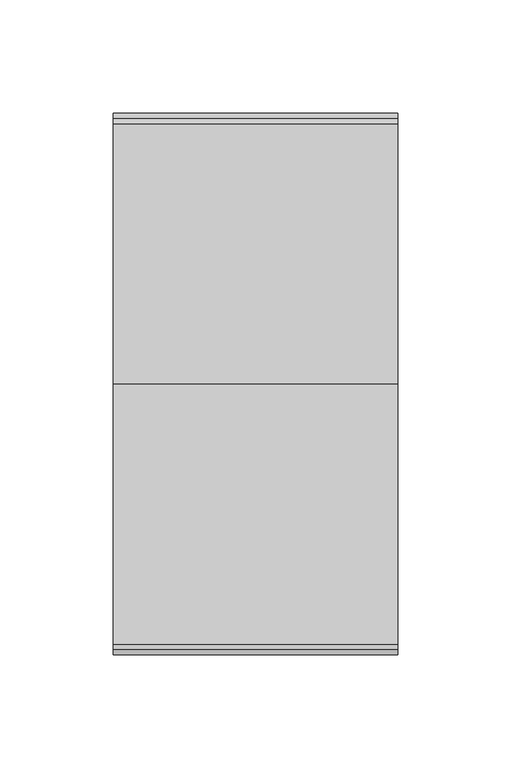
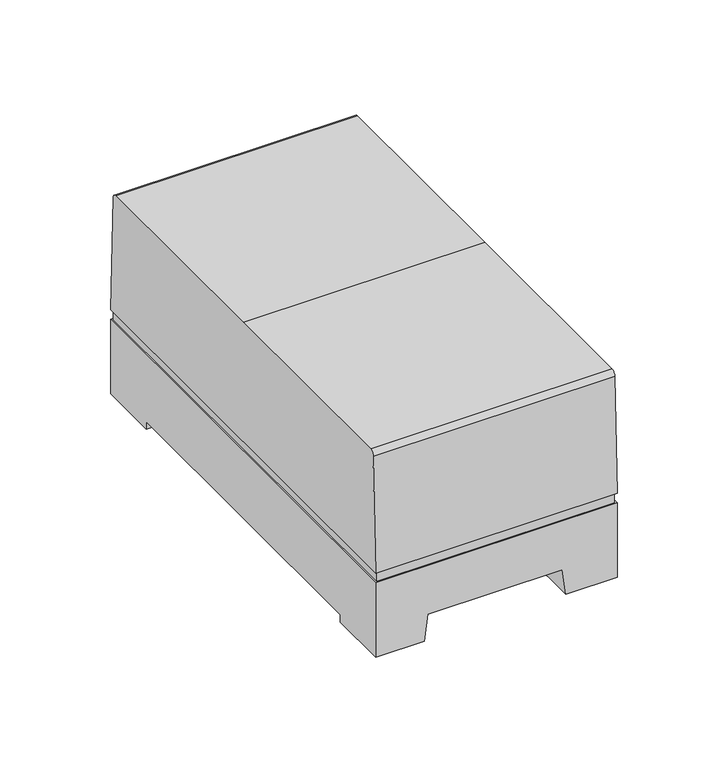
"""IFC4 building model written with IfcOpenShell, lengths in millimetres: proxy geometry, CONVER CCR-IG 48V 24V 7A : CONVER CCR-IG 48V 24V 7A."""

from ifc_helpers import new_model, si_unit, frame, origin, place, context, project, spatial, polyline, circle_curve, outline, extrude, source, transform, mapped, element, save
from ifc_brep_helpers import plane_surface, cylinder_surface, advanced_brep


def electrical_equipment_6eb15779(model_context):
    return source(origin(), model_context, "Body", "SolidModel", [
        extrude(outline(polyline([(-15.9, -50.0), (-15.9, -33.7275357), (-15.9, -31.10343), (-9.9, -31.10343), (-9.9, -29.583575), (-15.9, -29.583575), (-15.9, -27.086715), (-9.9, -27.086715), (-9.9, -25.56686), (-15.9, -25.56686), (-15.9, -23.07), (-9.9, -23.07), (-9.9, -21.550145), (-15.9, -21.550145), (-15.9, -19.053285), (-9.9, -19.053285), (-9.9, -17.53343), (-15.9, -17.53343), (-15.9, -15.03657), (-9.9, -15.03657), (-9.9, -13.516715), (-15.9, -13.516715), (-15.9, -11.019855), (-9.9, -11.019855), (-9.9, -9.5), (-15.9, -9.5), (-15.9, -7.00314), (-9.9, -7.00314), (-9.9, 6.983285), (-15.9, 6.983285), (-15.9, 9.480145), (-9.9, 9.480145), (-9.9, 11.0), (-15.9, 11.0), (-15.9, 13.418735), (-9.9, 13.418735), (-9.9, 15.0), (-15.9, 15.0), (-15.9, 17.418735), (-9.9, 17.418735), (-9.9, 19.0), (-15.9, 19.0), (-15.9, 21.418735), (-9.9, 21.418735), (-9.9, 23.0), (-15.9, 23.0), (-15.9, 25.418735), (-9.9, 25.418735), (-9.9, 27.0), (-15.9, 27.0), (-15.9, 29.418735), (-9.9, 29.418735), (-9.9, 31.0), (-15.9, 31.0), (-15.9, 50.0), (-4.9, 50.0), (-4.9, -50.0), (-15.9, -50.0)])), frame((0.0, -85.0, 0.0), z_axis=(0.0, 1.0, 0.0), x_axis=(0.0, 0.0, 1.0)), (0.0, 0.0, 1.0), 170.0),
        advanced_brep(
        [(62.9, -88.0, -23.9), (62.9, -88.0, -19.9), (62.9, -0.2949756, -19.9), (62.9, 87.4100488, -19.9), (62.9, 87.4100488, -23.9), (62.9, 119.4100488, -23.9), (62.9, 119.4100488, 17.1), (62.9, -120.0, 17.1), (62.9, -120.0, -23.9), (62.9, 119.4100488, 22.5), (62.9, 117.2066034, 85.598421), (62.9, 114.7050244, 88.1), (62.9, -0.2949756, 88.1), (62.9, -115.2949756, 88.1), (62.9, -117.7965546, 85.598421), (62.9, -120.0, 22.5), (-62.9, -88.0, -23.9), (-62.9, -120.0, -23.9), (-62.9, -120.0, 17.1), (-62.9, 119.4100488, 17.1), (-62.9, 119.4100488, -23.9), (-62.9, 87.4100488, -23.9), (-62.9, 87.4100488, -19.9), (-62.9, -0.2949756, -19.9), (-62.9, -88.0, -19.9), (-62.9, -120.0, 22.5), (-62.9, -117.7965546, 85.598421), (-62.9, -115.2949756, 88.1), (-62.9, -0.2949756, 88.1), (-62.9, 114.7050244, 88.1), (-62.9, 117.2066034, 85.598421), (-62.9, 119.4100488, 22.5), (36.15, -88.0, -23.9), (35.6147887, -88.0, -19.9), (-37.1206677, -88.0, -19.9), (-37.65, -88.0, -23.9), (35.6147887, -85.0, -19.9), (50.0, -85.0, -19.9), (50.0, -0.2949756, -19.9), (-50.0, -0.2949756, -19.9), (-50.0, -85.0, -19.9), (-37.1206677, -85.0, -19.9), (50.0, 85.0, -19.9), (35.6147887, 85.0, -19.9), (35.6147887, 87.4100488, -19.9), (-37.1206677, 87.4100488, -19.9), (-37.1206677, 85.0, -19.9), (-50.0, 85.0, -19.9), (36.15, 87.4100488, -23.9), (-37.65, 87.4100488, -23.9), (36.15, 119.4100488, -23.9), (-37.65, 119.4100488, -23.9), (34.25, 119.4100488, -9.7), (-35.7708703, 119.4100488, -9.7), (-37.65, -120.0, -23.9), (-35.7708703, -120.0, -9.7), (34.25, -120.0, -9.7), (36.15, -120.0, -23.9), (-36.5913354, -85.0, -15.9), (-36.5913354, 85.0, -15.9), (35.0795775, 85.0, -15.9), (35.0795775, -85.0, -15.9), (61.9899512, 118.5, 22.5), (61.9899512, -119.0899512, 22.5), (61.9899512, -119.0899512, 17.1), (61.9899512, 118.5, 17.1), (-61.9899512, -119.0899512, 22.5), (-61.9899512, -119.0899512, 17.1), (-61.9899512, 118.5, 22.5), (-61.9899512, 118.5, 17.1), (50.0, 85.0, -15.9), (50.0, -85.0, -15.9), (-50.0, -85.0, -15.9), (-50.0, 85.0, -15.9)],
        [
            (0, 1),
            (1, 2),
            (2, 3),
            (3, 4),
            (4, 5),
            (5, 6),
            (6, 7),
            (7, 8),
            (8, 0),
            (9, 10),
            (10, 11, circle_curve(frame((62.9, 114.7050244, 85.598421), z_axis=(1.0, 0.0, 0.0), x_axis=(0.0, 1.0, 0.0)), 2.501579)),
            (11, 12),
            (12, 13),
            (13, 14, circle_curve(frame((62.9, -115.2949756, 85.598421), z_axis=(1.0, 0.0, 0.0), x_axis=(0.0, -1.0, 0.0)), 2.501579)),
            (14, 15),
            (15, 9),
            (16, 17),
            (17, 18),
            (18, 19),
            (19, 20),
            (20, 21),
            (21, 22),
            (22, 23),
            (23, 24),
            (24, 16),
            (25, 26),
            (26, 27, circle_curve(frame((-62.9, -115.2949756, 85.598421), z_axis=(-1.0, 0.0, 0.0), x_axis=(0.0, -1.0, 0.0)), 2.501579)),
            (27, 28),
            (28, 29),
            (29, 30, circle_curve(frame((-62.9, 114.7050244, 85.598421), z_axis=(-1.0, 0.0, 0.0), x_axis=(0.0, 1.0, 0.0)), 2.501579)),
            (30, 31),
            (31, 25),
            (0, 32),
            (32, 33),
            (33, 1),
            (24, 34),
            (34, 35),
            (35, 16),
            (33, 36),
            (36, 37),
            (37, 38),
            (38, 2),
            (23, 39),
            (39, 40),
            (40, 41),
            (41, 34),
            (38, 42),
            (42, 43),
            (43, 44),
            (44, 3),
            (22, 45),
            (45, 46),
            (46, 47),
            (47, 39),
            (44, 48),
            (48, 4),
            (21, 49),
            (49, 45),
            (48, 50),
            (50, 5),
            (20, 51),
            (51, 49),
            (19, 6),
            (50, 52),
            (52, 53),
            (53, 51),
            (9, 31),
            (30, 10),
            (29, 11),
            (28, 12),
            (27, 13),
            (26, 14),
            (25, 15),
            (17, 54),
            (54, 55),
            (55, 56),
            (56, 57),
            (57, 8),
            (7, 18),
            (57, 32),
            (35, 54),
            (53, 55),
            (41, 58),
            (58, 59),
            (59, 46),
            (56, 52),
            (43, 60),
            (60, 61),
            (61, 36),
            (62, 63),
            (63, 64),
            (64, 65),
            (65, 62),
            (63, 66),
            (66, 67),
            (67, 64),
            (66, 68),
            (68, 69),
            (69, 67),
            (62, 68),
            (69, 65),
            (70, 71),
            (71, 61),
            (60, 70),
            (72, 73),
            (73, 59),
            (58, 72),
            (42, 70),
            (73, 47),
            (72, 40),
            (71, 37),
        ],
        [
            plane_surface(frame((62.9, -88.0, -4.7), z_axis=(1.0, 0.0, 0.0), x_axis=(0.0, 0.0, 1.0))),
            plane_surface(frame((-62.9, -88.0, -4.7), z_axis=(-1.0, 0.0, 0.0), x_axis=(0.0, 0.0, -1.0))),
            plane_surface(frame((62.9, -88.0, -23.9), z_axis=(0.0, 1.0, 0.0), x_axis=(-1.0, 0.0, 0.0))),
            plane_surface(frame((62.9, -88.0, -19.9), z_axis=(0.0, 0.0, -1.0), x_axis=(-1.0, 0.0, 0.0))),
            plane_surface(frame((62.9, -0.2949756, -19.9), z_axis=(0.0, 0.0, -1.0), x_axis=(-1.0, 0.0, 0.0))),
            plane_surface(frame((62.9, 87.4100488, -19.9), z_axis=(0.0, -1.0, 0.0), x_axis=(-1.0, 0.0, 0.0))),
            plane_surface(frame((62.9, 87.4100488, -23.9), z_axis=(0.0, 0.0, -1.0), x_axis=(-1.0, 0.0, 0.0))),
            plane_surface(frame((62.9, 119.4100488, -23.9), z_axis=(0.0, 1.0, 0.0), x_axis=(-1.0, 0.0, 0.0))),
            plane_surface(frame((62.9, 119.4100488, 22.5), z_axis=(0.0, 0.9993908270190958, 0.034899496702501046), x_axis=(-1.0, 0.0, 0.0))),
            cylinder_surface(frame((-62.9, 114.7050244, 85.598421), z_axis=(1.0, 0.0, 0.0), x_axis=(0.0, 1.0, 0.0)), 2.501579),
            plane_surface(frame((62.9, 114.7050244, 88.1), z_axis=(0.0, 0.0, 1.0), x_axis=(-1.0, 0.0, 0.0))),
            plane_surface(frame((62.9, -0.2949756, 88.1), z_axis=(0.0, 0.0, 1.0), x_axis=(-1.0, 0.0, 0.0))),
            cylinder_surface(frame((-62.9, -115.2949756, 85.598421), z_axis=(1.0, 0.0, 0.0), x_axis=(0.0, -1.0, 0.0)), 2.501579),
            plane_surface(frame((62.9, -117.7965546, 85.598421), z_axis=(0.0, -0.9993908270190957, 0.03489949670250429), x_axis=(-1.0, 0.0, 0.0))),
            plane_surface(frame((62.9, -120.0, 22.5), z_axis=(0.0, -1.0, 0.0), x_axis=(-1.0, 0.0, 0.0))),
            plane_surface(frame((62.9, -120.0, -23.9), z_axis=(0.0, 0.0, -1.0), x_axis=(-1.0, 0.0, 0.0))),
            plane_surface(frame((-35.7708703, -120.0, -9.7), z_axis=(0.9913573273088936, 0.0, -0.1311893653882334), x_axis=(0.0, 1.0, 0.0))),
            plane_surface(frame((36.15, -120.0, -23.9), z_axis=(-0.9911668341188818, 0.0, -0.13262091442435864), x_axis=(0.0, 1.0, 0.0))),
            plane_surface(frame((34.25, -120.0, -9.7), z_axis=(0.0, 0.0, -1.0), x_axis=(0.0, 1.0, 0.0))),
            plane_surface(frame((61.9899512, 118.5, 17.1), z_axis=(1.0, 0.0, 0.0), x_axis=(0.0, -1.0, 0.0))),
            plane_surface(frame((61.9899512, -119.0899512, 17.1), z_axis=(0.0, -1.0, 0.0), x_axis=(-1.0, 0.0, 0.0))),
            plane_surface(frame((-61.9899512, -119.0899512, 17.1), z_axis=(-1.0, 0.0, 0.0), x_axis=(0.0, 1.0, 0.0))),
            plane_surface(frame((-61.9899512, 118.5, 22.5), z_axis=(0.0, 0.0, -1.0), x_axis=(1.0, 0.0, 0.0))),
            plane_surface(frame((-62.9, 119.4100488, 17.1), z_axis=(0.0, 0.0, 1.0), x_axis=(1.0, 0.0, 0.0))),
            plane_surface(frame((-61.9899512, 118.5, 17.1), z_axis=(0.0, 1.0, 0.0), x_axis=(1.0, 0.0, 0.0))),
            plane_surface(frame((-50.0, 85.0, -15.9), z_axis=(0.0, 0.0, -1.0), x_axis=(-1.0, 0.0, 0.0))),
            plane_surface(frame((50.0, 85.0, -15.9), z_axis=(0.0, -1.0, 0.0), x_axis=(0.0, 0.0, -1.0))),
            plane_surface(frame((-50.0, 85.0, -15.9), z_axis=(1.0, 0.0, 0.0), x_axis=(0.0, 0.0, -1.0))),
            plane_surface(frame((-50.0, -85.0, -15.9), z_axis=(0.0, 1.0, 0.0), x_axis=(0.0, 0.0, -1.0))),
            plane_surface(frame((50.0, -85.0, -15.9), z_axis=(-1.0, 0.0, 0.0), x_axis=(0.0, 0.0, -1.0))),
        ],
        [
            (0, [[1, 2, 3, 4, 5, 6, 7, 8, 9]]),
            (0, [[10, 11, 12, 13, 14, 15, 16]]),
            (1, [[17, 18, 19, 20, 21, 22, 23, 24, 25]]),
            (1, [[26, 27, 28, 29, 30, 31, 32]]),
            (2, [[-1, 33, 34, 35]]),
            (2, [[-25, 36, 37, 38]]),
            (3, [[-2, -35, 39, 40, 41, 42]]),
            (3, [[-24, 43, 44, 45, 46, -36]]),
            (4, [[-3, -42, 47, 48, 49, 50]]),
            (4, [[-23, 51, 52, 53, 54, -43]]),
            (5, [[-4, -50, 55, 56]]),
            (5, [[-22, 57, 58, -51]]),
            (6, [[-5, -56, 59, 60]]),
            (6, [[-21, 61, 62, -57]]),
            (7, [[-61, -20, 63, -6, -60, 64, 65, 66]]),
            (8, [[-10, 67, -31, 68]]),
            (9, [[-11, -68, -30, 69]]),
            (10, [[-12, -69, -29, 70]]),
            (11, [[-13, -70, -28, 71]]),
            (12, [[-14, -71, -27, 72]]),
            (13, [[-15, -72, -26, 73]]),
            (14, [[74, 75, 76, 77, 78, -8, 79, -18]]),
            (15, [[-9, -78, 80, -33]]),
            (15, [[-17, -38, 81, -74]]),
            (16, [[82, -75, -81, -37, -46, 83, 84, 85, -52, -58, -62, -66]]),
            (17, [[86, -64, -59, -55, -49, 87, 88, 89, -39, -34, -80, -77]]),
            (18, [[-82, -65, -86, -76]]),
            (19, [[90, 91, 92, 93]]),
            (20, [[-91, 94, 95, 96]]),
            (21, [[-95, 97, 98, 99]]),
            (22, [[-16, -73, -32, -67], [-90, 100, -97, -94]]),
            (23, [[-7, -63, -19, -79], [-92, -96, -99, 101]]),
            (24, [[-93, -101, -98, -100]]),
            (25, [[102, 103, -88, 104]]),
            (25, [[105, 106, -84, 107]]),
            (26, [[-104, -87, -48, 108]]),
            (26, [[-106, 109, -53, -85]]),
            (27, [[-105, 110, -44, -54, -109]]),
            (28, [[-103, 111, -40, -89]]),
            (28, [[-107, -83, -45, -110]]),
            (29, [[-102, -108, -47, -41, -111]]),
        ],
    ),
    ])


if __name__ == "__main__":
    model = new_model("IFC4")
    model_context = context("Model", 3, world=origin())
    ifc_project = project(units=[si_unit("LENGTHUNIT", "METRE", prefix="MILLI")], contexts=[model_context])
    site = spatial("IfcSite", under=ifc_project)
    building = spatial("IfcBuilding", under=site)
    placement = place(None, origin())
    electrical_equipment_shape = electrical_equipment_6eb15779(model_context)
    element("IfcBuildingElementProxy", 1, Name="CONVER CCR-IG 48V 24V 7A : CONVER CCR-IG 48V 24V 7A", ObjectType="CONVER CCR-IG 48V 24V 7A : CONVER CCR-IG 48V 24V 7A", at=placement, inside=building, context=model_context, shape_type="MappedRepresentation", body=[
        mapped(electrical_equipment_shape, transform((0.0, 0.0, 0.0), x_axis=(1.0, 0.0, 0.0), y_axis=(0.0, 1.0, 0.0), z_axis=(0.0, 0.0, 1.0))),
    ])
    save(model, "model.ifc")
